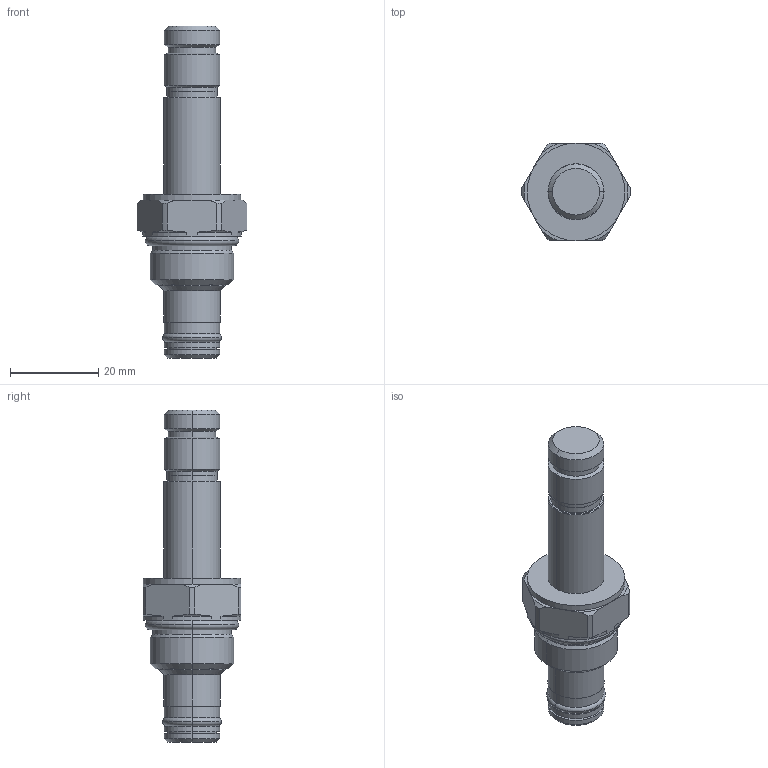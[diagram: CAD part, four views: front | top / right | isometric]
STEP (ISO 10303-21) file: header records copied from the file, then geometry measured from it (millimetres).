
FILE_DESCRIPTION((''),'2;1');
FILE_NAME('SX08-20','2014-04-10T',('mg1'),(''),'PRO/ENGINEER BY PARAMETRIC TECHNOLOGY CORPORATION, 2013230','PRO/ENGINEER BY PARAMETRIC TECHNOLOGY CORPORATION, 2013230','');
FILE_SCHEMA(('CONFIG_CONTROL_DESIGN'));
Length unit declared in the file: millimetre
Products named in the file (1): SX08-20
Bounding box: 24.94 x 22.23 x 75.41 mm (x, y, z)
Volume: 13969.7 mm3; surface area: 4730.1 mm2
Topology: 1 solids, 1 shells, 116 faces, 268 edges, 162 vertices
Faces by surface type: cylinder 48, cone 36, torus 16, plane 16
Entity records: 3400 total; most frequent: CARTESIAN_POINT 656, DIRECTION 624, ORIENTED_EDGE 536, EDGE_CURVE 268, AXIS2_PLACEMENT_3D 264, VERTEX_POINT 162, CIRCLE 148, EDGE_LOOP 124
